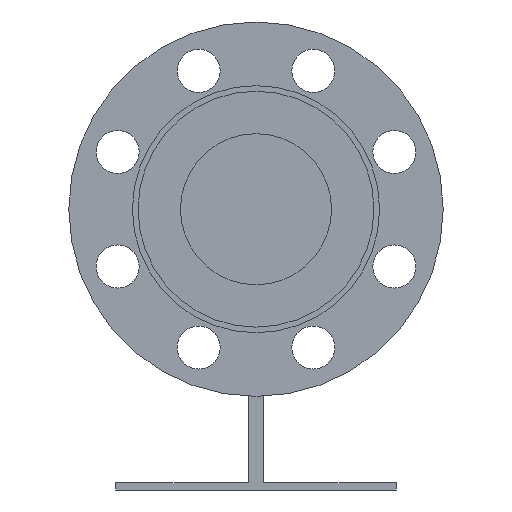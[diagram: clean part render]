
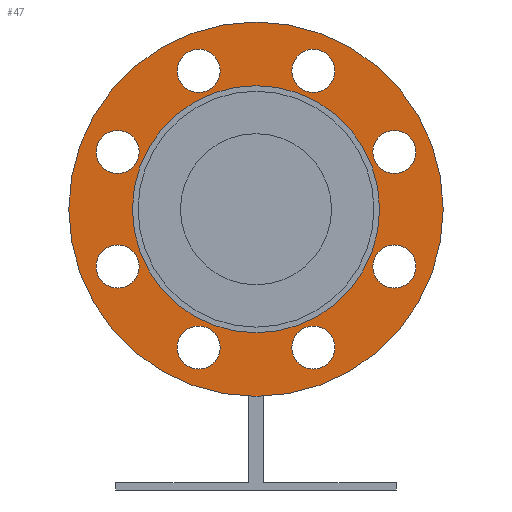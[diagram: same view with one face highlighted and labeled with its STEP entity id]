
A CAD part, left-side view. The second image highlights one B-rep face of the part: STEP entity #47.
In plain terms, the highlighted planar face has unit normal (-1, 0, 0).
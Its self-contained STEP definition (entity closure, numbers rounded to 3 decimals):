
#47=ADVANCED_FACE('',(#221,#222,#223,#224,#225,#226,#227,#228,#229,#230),#220,.T.);
#220=PLANE('',#1231);
#221=FACE_OUTER_BOUND('',#1232,.T.);
#222=FACE_BOUND('',#1233,.T.);
#223=FACE_BOUND('',#1234,.T.);
#224=FACE_BOUND('',#1235,.T.);
#225=FACE_BOUND('',#1236,.T.);
#226=FACE_BOUND('',#1237,.T.);
#227=FACE_BOUND('',#1238,.T.);
#228=FACE_BOUND('',#1239,.T.);
#229=FACE_BOUND('',#1240,.T.);
#230=FACE_BOUND('',#1241,.T.);
#1228=CARTESIAN_POINT('',(-387.,-183.205,-210.));
#1229=DIRECTION('',(-1.,0.,0.));
#1230=DIRECTION('',(0.,0.,1.));
#1231=AXIS2_PLACEMENT_3D('',#1228,#1229,#1230);
#1232=EDGE_LOOP('',(#1775,#1776));
#1233=EDGE_LOOP('',(#1777,#1778));
#1234=EDGE_LOOP('',(#1779,#1780));
#1235=EDGE_LOOP('',(#1781,#1782));
#1236=EDGE_LOOP('',(#1783,#1784));
#1237=EDGE_LOOP('',(#1785,#1786));
#1238=EDGE_LOOP('',(#1787,#1788));
#1239=EDGE_LOOP('',(#1789,#1790));
#1240=EDGE_LOOP('',(#1791,#1792));
#1241=EDGE_LOOP('',(#1793,#1794));
#1775=ORIENTED_EDGE('',*,*,#2283,.T.);
#1776=ORIENTED_EDGE('',*,*,#2284,.T.);
#1777=ORIENTED_EDGE('',*,*,#2285,.T.);
#1778=ORIENTED_EDGE('',*,*,#2286,.T.);
#1779=ORIENTED_EDGE('',*,*,#2287,.T.);
#1780=ORIENTED_EDGE('',*,*,#2288,.T.);
#1781=ORIENTED_EDGE('',*,*,#2289,.T.);
#1782=ORIENTED_EDGE('',*,*,#2290,.T.);
#1783=ORIENTED_EDGE('',*,*,#2291,.T.);
#1784=ORIENTED_EDGE('',*,*,#2292,.T.);
#1785=ORIENTED_EDGE('',*,*,#2293,.T.);
#1786=ORIENTED_EDGE('',*,*,#2294,.T.);
#1787=ORIENTED_EDGE('',*,*,#2295,.T.);
#1788=ORIENTED_EDGE('',*,*,#2296,.T.);
#1789=ORIENTED_EDGE('',*,*,#2297,.T.);
#1790=ORIENTED_EDGE('',*,*,#2298,.T.);
#1791=ORIENTED_EDGE('',*,*,#2299,.T.);
#1792=ORIENTED_EDGE('',*,*,#2300,.T.);
#1793=ORIENTED_EDGE('',*,*,#2301,.F.);
#1794=ORIENTED_EDGE('',*,*,#2302,.F.);
#2283=EDGE_CURVE('',#2807,#2808,#2809,.T.);
#2284=EDGE_CURVE('',#2808,#2807,#2815,.T.);
#2285=EDGE_CURVE('',#2821,#2822,#2823,.T.);
#2286=EDGE_CURVE('',#2822,#2821,#2829,.T.);
#2287=EDGE_CURVE('',#2835,#2836,#2837,.T.);
#2288=EDGE_CURVE('',#2836,#2835,#2843,.T.);
#2289=EDGE_CURVE('',#2849,#2850,#2851,.T.);
#2290=EDGE_CURVE('',#2850,#2849,#2857,.T.);
#2291=EDGE_CURVE('',#2863,#2864,#2865,.T.);
#2292=EDGE_CURVE('',#2864,#2863,#2871,.T.);
#2293=EDGE_CURVE('',#2877,#2878,#2879,.T.);
#2294=EDGE_CURVE('',#2878,#2877,#2885,.T.);
#2295=EDGE_CURVE('',#2891,#2892,#2893,.T.);
#2296=EDGE_CURVE('',#2892,#2891,#2899,.T.);
#2297=EDGE_CURVE('',#2905,#2906,#2907,.T.);
#2298=EDGE_CURVE('',#2906,#2905,#2913,.T.);
#2299=EDGE_CURVE('',#2919,#2920,#2921,.T.);
#2300=EDGE_CURVE('',#2920,#2919,#2927,.T.);
#2301=EDGE_CURVE('',#2933,#2934,#2935,.T.);
#2302=EDGE_CURVE('',#2934,#2933,#2941,.T.);
#2807=VERTEX_POINT('',#4398);
#2808=VERTEX_POINT('',#4399);
#2809=CIRCLE('',#4403,100.);
#2815=CIRCLE('',#4407,100.);
#2821=VERTEX_POINT('',#4408);
#2822=VERTEX_POINT('',#4409);
#2823=CIRCLE('',#4413,11.5);
#2829=CIRCLE('',#4417,11.5);
#2835=VERTEX_POINT('',#4418);
#2836=VERTEX_POINT('',#4419);
#2837=CIRCLE('',#4423,11.5);
#2843=CIRCLE('',#4427,11.5);
#2849=VERTEX_POINT('',#4428);
#2850=VERTEX_POINT('',#4429);
#2851=CIRCLE('',#4433,11.5);
#2857=CIRCLE('',#4437,11.5);
#2863=VERTEX_POINT('',#4438);
#2864=VERTEX_POINT('',#4439);
#2865=CIRCLE('',#4443,11.5);
#2871=CIRCLE('',#4447,11.5);
#2877=VERTEX_POINT('',#4448);
#2878=VERTEX_POINT('',#4449);
#2879=CIRCLE('',#4453,11.5);
#2885=CIRCLE('',#4457,11.5);
#2891=VERTEX_POINT('',#4458);
#2892=VERTEX_POINT('',#4459);
#2893=CIRCLE('',#4463,11.5);
#2899=CIRCLE('',#4467,11.5);
#2905=VERTEX_POINT('',#4468);
#2906=VERTEX_POINT('',#4469);
#2907=CIRCLE('',#4473,11.5);
#2913=CIRCLE('',#4477,11.5);
#2919=VERTEX_POINT('',#4478);
#2920=VERTEX_POINT('',#4479);
#2921=CIRCLE('',#4483,11.5);
#2927=CIRCLE('',#4487,11.5);
#2933=VERTEX_POINT('',#4488);
#2934=VERTEX_POINT('',#4489);
#2935=CIRCLE('',#4493,66.);
#2941=CIRCLE('',#4497,66.);
#4398=CARTESIAN_POINT('',(-387.,0.,100.));
#4399=CARTESIAN_POINT('',(-387.,0.,-100.));
#4400=CARTESIAN_POINT('',(-387.,0.,0.));
#4401=DIRECTION('',(-1.,0.,0.));
#4402=DIRECTION('',(0.,0.,1.));
#4403=AXIS2_PLACEMENT_3D('',#4400,#4401,#4402);
#4404=CARTESIAN_POINT('',(-387.,0.,0.));
#4405=DIRECTION('',(-1.,0.,0.));
#4406=DIRECTION('',(0.,0.,1.));
#4407=AXIS2_PLACEMENT_3D('',#4404,#4405,#4406);
#4408=CARTESIAN_POINT('',(-387.,73.91,42.115));
#4409=CARTESIAN_POINT('',(-387.,73.91,19.115));
#4410=CARTESIAN_POINT('',(-387.,73.91,30.615));
#4411=DIRECTION('',(1.,0.,0.));
#4412=DIRECTION('',(0.,0.,1.));
#4413=AXIS2_PLACEMENT_3D('',#4410,#4411,#4412);
#4414=CARTESIAN_POINT('',(-387.,73.91,30.615));
#4415=DIRECTION('',(1.,0.,0.));
#4416=DIRECTION('',(0.,0.,1.));
#4417=AXIS2_PLACEMENT_3D('',#4414,#4415,#4416);
#4418=CARTESIAN_POINT('',(-387.,30.615,85.41));
#4419=CARTESIAN_POINT('',(-387.,30.615,62.41));
#4420=CARTESIAN_POINT('',(-387.,30.615,73.91));
#4421=DIRECTION('',(1.,0.,0.));
#4422=DIRECTION('',(0.,0.,1.));
#4423=AXIS2_PLACEMENT_3D('',#4420,#4421,#4422);
#4424=CARTESIAN_POINT('',(-387.,30.615,73.91));
#4425=DIRECTION('',(1.,0.,0.));
#4426=DIRECTION('',(0.,0.,1.));
#4427=AXIS2_PLACEMENT_3D('',#4424,#4425,#4426);
#4428=CARTESIAN_POINT('',(-387.,-30.615,85.41));
#4429=CARTESIAN_POINT('',(-387.,-30.615,62.41));
#4430=CARTESIAN_POINT('',(-387.,-30.615,73.91));
#4431=DIRECTION('',(1.,0.,0.));
#4432=DIRECTION('',(0.,0.,1.));
#4433=AXIS2_PLACEMENT_3D('',#4430,#4431,#4432);
#4434=CARTESIAN_POINT('',(-387.,-30.615,73.91));
#4435=DIRECTION('',(1.,0.,0.));
#4436=DIRECTION('',(0.,0.,1.));
#4437=AXIS2_PLACEMENT_3D('',#4434,#4435,#4436);
#4438=CARTESIAN_POINT('',(-387.,-73.91,42.115));
#4439=CARTESIAN_POINT('',(-387.,-73.91,19.115));
#4440=CARTESIAN_POINT('',(-387.,-73.91,30.615));
#4441=DIRECTION('',(1.,0.,0.));
#4442=DIRECTION('',(0.,0.,1.));
#4443=AXIS2_PLACEMENT_3D('',#4440,#4441,#4442);
#4444=CARTESIAN_POINT('',(-387.,-73.91,30.615));
#4445=DIRECTION('',(1.,0.,0.));
#4446=DIRECTION('',(0.,0.,1.));
#4447=AXIS2_PLACEMENT_3D('',#4444,#4445,#4446);
#4448=CARTESIAN_POINT('',(-387.,-73.91,-19.115));
#4449=CARTESIAN_POINT('',(-387.,-73.91,-42.115));
#4450=CARTESIAN_POINT('',(-387.,-73.91,-30.615));
#4451=DIRECTION('',(1.,0.,0.));
#4452=DIRECTION('',(0.,0.,1.));
#4453=AXIS2_PLACEMENT_3D('',#4450,#4451,#4452);
#4454=CARTESIAN_POINT('',(-387.,-73.91,-30.615));
#4455=DIRECTION('',(1.,0.,0.));
#4456=DIRECTION('',(0.,0.,1.));
#4457=AXIS2_PLACEMENT_3D('',#4454,#4455,#4456);
#4458=CARTESIAN_POINT('',(-387.,-30.615,-62.41));
#4459=CARTESIAN_POINT('',(-387.,-30.615,-85.41));
#4460=CARTESIAN_POINT('',(-387.,-30.615,-73.91));
#4461=DIRECTION('',(1.,0.,0.));
#4462=DIRECTION('',(0.,0.,1.));
#4463=AXIS2_PLACEMENT_3D('',#4460,#4461,#4462);
#4464=CARTESIAN_POINT('',(-387.,-30.615,-73.91));
#4465=DIRECTION('',(1.,0.,0.));
#4466=DIRECTION('',(0.,0.,1.));
#4467=AXIS2_PLACEMENT_3D('',#4464,#4465,#4466);
#4468=CARTESIAN_POINT('',(-387.,30.615,-62.41));
#4469=CARTESIAN_POINT('',(-387.,30.615,-85.41));
#4470=CARTESIAN_POINT('',(-387.,30.615,-73.91));
#4471=DIRECTION('',(1.,0.,0.));
#4472=DIRECTION('',(0.,0.,1.));
#4473=AXIS2_PLACEMENT_3D('',#4470,#4471,#4472);
#4474=CARTESIAN_POINT('',(-387.,30.615,-73.91));
#4475=DIRECTION('',(1.,0.,0.));
#4476=DIRECTION('',(0.,0.,1.));
#4477=AXIS2_PLACEMENT_3D('',#4474,#4475,#4476);
#4478=CARTESIAN_POINT('',(-387.,73.91,-19.115));
#4479=CARTESIAN_POINT('',(-387.,73.91,-42.115));
#4480=CARTESIAN_POINT('',(-387.,73.91,-30.615));
#4481=DIRECTION('',(1.,0.,0.));
#4482=DIRECTION('',(0.,0.,1.));
#4483=AXIS2_PLACEMENT_3D('',#4480,#4481,#4482);
#4484=CARTESIAN_POINT('',(-387.,73.91,-30.615));
#4485=DIRECTION('',(1.,0.,0.));
#4486=DIRECTION('',(0.,0.,1.));
#4487=AXIS2_PLACEMENT_3D('',#4484,#4485,#4486);
#4488=CARTESIAN_POINT('',(-387.,0.,-66.));
#4489=CARTESIAN_POINT('',(-387.,0.,66.));
#4490=CARTESIAN_POINT('',(-387.,0.,0.));
#4491=DIRECTION('',(-1.,0.,0.));
#4492=DIRECTION('',(0.,0.,1.));
#4493=AXIS2_PLACEMENT_3D('',#4490,#4491,#4492);
#4494=CARTESIAN_POINT('',(-387.,0.,0.));
#4495=DIRECTION('',(-1.,0.,0.));
#4496=DIRECTION('',(0.,0.,1.));
#4497=AXIS2_PLACEMENT_3D('',#4494,#4495,#4496);
